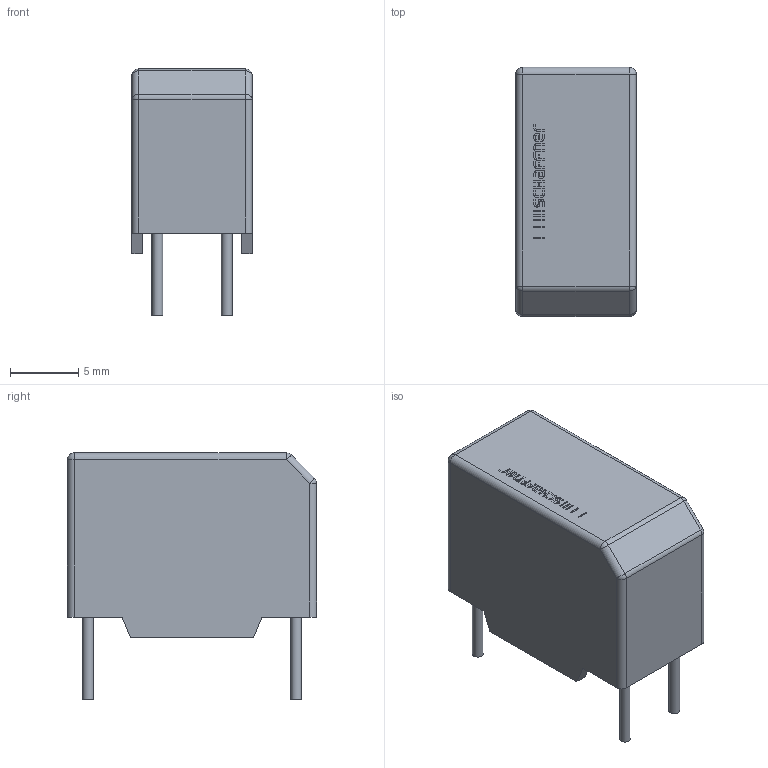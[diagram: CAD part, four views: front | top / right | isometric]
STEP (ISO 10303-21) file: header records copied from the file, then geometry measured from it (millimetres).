
FILE_DESCRIPTION((''),'2;1');
FILE_NAME('K:\CAD-PDM\Library\Inventor\3D format STEP file\3D RN-series\RN202.stp','2016-06-28T13:55:02',('jittrapon.maneerat'),(''),'Autodesk Inventor 2013','Autodesk Inventor 2013','');
FILE_SCHEMA(('AUTOMOTIVE_DESIGN { 1 0 10303 214 1 1 1 1 }'));
Length unit declared in the file: millimetre
Products named in the file (1): Part11
Bounding box: 8.8 x 18.2 x 18.01 mm (x, y, z)
Volume: 1924 mm3; surface area: 1059.8 mm2
Topology: 1 solids, 1 shells, 205 faces, 531 edges, 348 vertices
Faces by surface type: plane 140, bspline 32, cylinder 27, sphere 6
Full cylindrical faces by diameter (mm): 0.8 x4
Entity records: 6658 total; most frequent: CARTESIAN_POINT 1569, ORIENTED_EDGE 1054, DIRECTION 865, EDGE_CURVE 527, VECTOR 409, LINE 409, VERTEX_POINT 348, EDGE_LOOP 229
